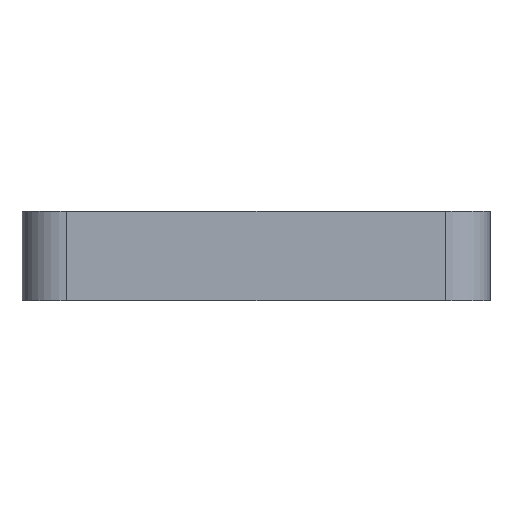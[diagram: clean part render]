
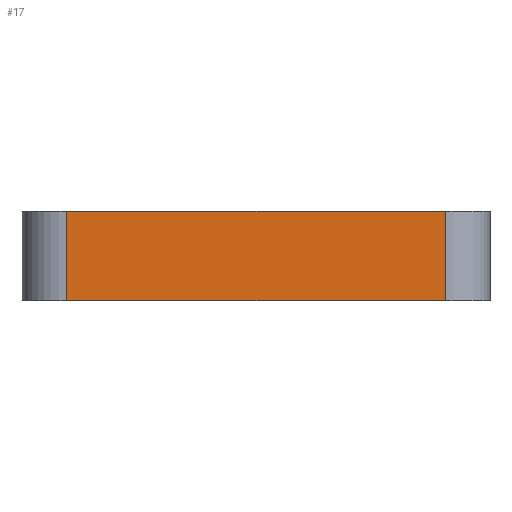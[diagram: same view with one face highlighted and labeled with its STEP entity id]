
A CAD part, left-side view. The second image highlights one B-rep face of the part: STEP entity #17.
In plain terms, the highlighted planar face has unit normal (-1, 0, 0).
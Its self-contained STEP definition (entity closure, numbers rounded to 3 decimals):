
#17 = ADVANCED_FACE('',(#18),#32,.T.);
#18 = FACE_BOUND('',#19,.T.);
#19 = EDGE_LOOP('',(#20,#55,#83,#111));
#20 = ORIENTED_EDGE('',*,*,#21,.T.);
#21 = EDGE_CURVE('',#22,#24,#26,.T.);
#22 = VERTEX_POINT('',#23);
#23 = CARTESIAN_POINT('',(-36.4,4.,-17.4));
#24 = VERTEX_POINT('',#25);
#25 = CARTESIAN_POINT('',(-36.4,4.,-15.4));
#26 = SURFACE_CURVE('',#27,(#31,#43),.PCURVE_S1.);
#27 = LINE('',#28,#29);
#28 = CARTESIAN_POINT('',(-36.4,4.,-17.4));
#29 = VECTOR('',#30,1.);
#30 = DIRECTION('',(0.,0.,1.));
#31 = PCURVE('',#32,#37);
#32 = PLANE('',#33);
#33 = AXIS2_PLACEMENT_3D('',#34,#35,#36);
#34 = CARTESIAN_POINT('',(-36.4,4.,-17.4));
#35 = DIRECTION('',(-1.,0.,0.));
#36 = DIRECTION('',(0.,1.,0.));
#37 = DEFINITIONAL_REPRESENTATION('',(#38),#42);
#38 = LINE('',#39,#40);
#39 = CARTESIAN_POINT('',(0.,0.));
#40 = VECTOR('',#41,1.);
#41 = DIRECTION('',(0.,-1.));
#42 = ( GEOMETRIC_REPRESENTATION_CONTEXT(2) 
PARAMETRIC_REPRESENTATION_CONTEXT() REPRESENTATION_CONTEXT('2D SPACE',''
  ) );
#43 = PCURVE('',#44,#49);
#44 = CYLINDRICAL_SURFACE('',#45,1.);
#45 = AXIS2_PLACEMENT_3D('',#46,#47,#48);
#46 = CARTESIAN_POINT('',(-35.4,4.,-17.4));
#47 = DIRECTION('',(-0.,-0.,-1.));
#48 = DIRECTION('',(1.,0.,0.));
#49 = DEFINITIONAL_REPRESENTATION('',(#50),#54);
#50 = LINE('',#51,#52);
#51 = CARTESIAN_POINT('',(-3.142,0.));
#52 = VECTOR('',#53,1.);
#53 = DIRECTION('',(-0.,-1.));
#54 = ( GEOMETRIC_REPRESENTATION_CONTEXT(2) 
PARAMETRIC_REPRESENTATION_CONTEXT() REPRESENTATION_CONTEXT('2D SPACE',''
  ) );
#55 = ORIENTED_EDGE('',*,*,#56,.T.);
#56 = EDGE_CURVE('',#24,#57,#59,.T.);
#57 = VERTEX_POINT('',#58);
#58 = CARTESIAN_POINT('',(-36.4,12.5,-15.4));
#59 = SURFACE_CURVE('',#60,(#64,#71),.PCURVE_S1.);
#60 = LINE('',#61,#62);
#61 = CARTESIAN_POINT('',(-36.4,8.25,-15.4));
#62 = VECTOR('',#63,1.);
#63 = DIRECTION('',(0.,1.,0.));
#64 = PCURVE('',#32,#65);
#65 = DEFINITIONAL_REPRESENTATION('',(#66),#70);
#66 = LINE('',#67,#68);
#67 = CARTESIAN_POINT('',(4.25,-2.));
#68 = VECTOR('',#69,1.);
#69 = DIRECTION('',(1.,0.));
#70 = ( GEOMETRIC_REPRESENTATION_CONTEXT(2) 
PARAMETRIC_REPRESENTATION_CONTEXT() REPRESENTATION_CONTEXT('2D SPACE',''
  ) );
#71 = PCURVE('',#72,#77);
#72 = PLANE('',#73);
#73 = AXIS2_PLACEMENT_3D('',#74,#75,#76);
#74 = CARTESIAN_POINT('',(-30.9,8.25,-15.4));
#75 = DIRECTION('',(0.,0.,1.));
#76 = DIRECTION('',(1.,0.,0.));
#77 = DEFINITIONAL_REPRESENTATION('',(#78),#82);
#78 = LINE('',#79,#80);
#79 = CARTESIAN_POINT('',(-5.5,0.));
#80 = VECTOR('',#81,1.);
#81 = DIRECTION('',(0.,1.));
#82 = ( GEOMETRIC_REPRESENTATION_CONTEXT(2) 
PARAMETRIC_REPRESENTATION_CONTEXT() REPRESENTATION_CONTEXT('2D SPACE',''
  ) );
#83 = ORIENTED_EDGE('',*,*,#84,.F.);
#84 = EDGE_CURVE('',#85,#57,#87,.T.);
#85 = VERTEX_POINT('',#86);
#86 = CARTESIAN_POINT('',(-36.4,12.5,-17.4));
#87 = SURFACE_CURVE('',#88,(#92,#99),.PCURVE_S1.);
#88 = LINE('',#89,#90);
#89 = CARTESIAN_POINT('',(-36.4,12.5,-17.4));
#90 = VECTOR('',#91,1.);
#91 = DIRECTION('',(0.,0.,1.));
#92 = PCURVE('',#32,#93);
#93 = DEFINITIONAL_REPRESENTATION('',(#94),#98);
#94 = LINE('',#95,#96);
#95 = CARTESIAN_POINT('',(8.5,0.));
#96 = VECTOR('',#97,1.);
#97 = DIRECTION('',(0.,-1.));
#98 = ( GEOMETRIC_REPRESENTATION_CONTEXT(2) 
PARAMETRIC_REPRESENTATION_CONTEXT() REPRESENTATION_CONTEXT('2D SPACE',''
  ) );
#99 = PCURVE('',#100,#105);
#100 = CYLINDRICAL_SURFACE('',#101,1.);
#101 = AXIS2_PLACEMENT_3D('',#102,#103,#104);
#102 = CARTESIAN_POINT('',(-35.4,12.5,-17.4));
#103 = DIRECTION('',(-0.,-0.,-1.));
#104 = DIRECTION('',(1.,0.,0.));
#105 = DEFINITIONAL_REPRESENTATION('',(#106),#110);
#106 = LINE('',#107,#108);
#107 = CARTESIAN_POINT('',(-3.142,0.));
#108 = VECTOR('',#109,1.);
#109 = DIRECTION('',(-0.,-1.));
#110 = ( GEOMETRIC_REPRESENTATION_CONTEXT(2) 
PARAMETRIC_REPRESENTATION_CONTEXT() REPRESENTATION_CONTEXT('2D SPACE',''
  ) );
#111 = ORIENTED_EDGE('',*,*,#112,.F.);
#112 = EDGE_CURVE('',#22,#85,#113,.T.);
#113 = SURFACE_CURVE('',#114,(#118,#125),.PCURVE_S1.);
#114 = LINE('',#115,#116);
#115 = CARTESIAN_POINT('',(-36.4,8.25,-17.4));
#116 = VECTOR('',#117,1.);
#117 = DIRECTION('',(0.,1.,0.));
#118 = PCURVE('',#32,#119);
#119 = DEFINITIONAL_REPRESENTATION('',(#120),#124);
#120 = LINE('',#121,#122);
#121 = CARTESIAN_POINT('',(4.25,0.));
#122 = VECTOR('',#123,1.);
#123 = DIRECTION('',(1.,0.));
#124 = ( GEOMETRIC_REPRESENTATION_CONTEXT(2) 
PARAMETRIC_REPRESENTATION_CONTEXT() REPRESENTATION_CONTEXT('2D SPACE',''
  ) );
#125 = PCURVE('',#126,#131);
#126 = PLANE('',#127);
#127 = AXIS2_PLACEMENT_3D('',#128,#129,#130);
#128 = CARTESIAN_POINT('',(-30.9,8.25,-17.4));
#129 = DIRECTION('',(0.,0.,1.));
#130 = DIRECTION('',(1.,0.,0.));
#131 = DEFINITIONAL_REPRESENTATION('',(#132),#136);
#132 = LINE('',#133,#134);
#133 = CARTESIAN_POINT('',(-5.5,0.));
#134 = VECTOR('',#135,1.);
#135 = DIRECTION('',(0.,1.));
#136 = ( GEOMETRIC_REPRESENTATION_CONTEXT(2) 
PARAMETRIC_REPRESENTATION_CONTEXT() REPRESENTATION_CONTEXT('2D SPACE',''
  ) );
